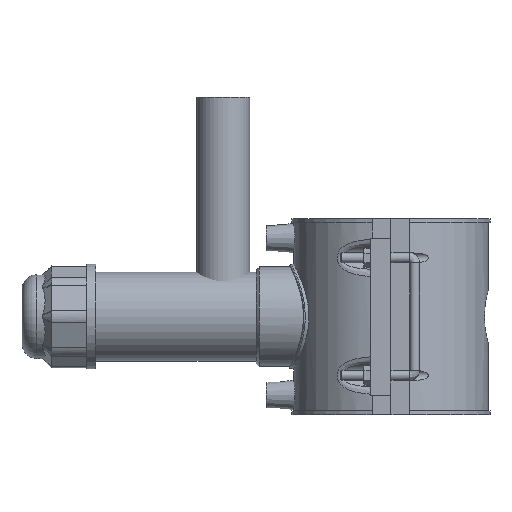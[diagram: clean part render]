
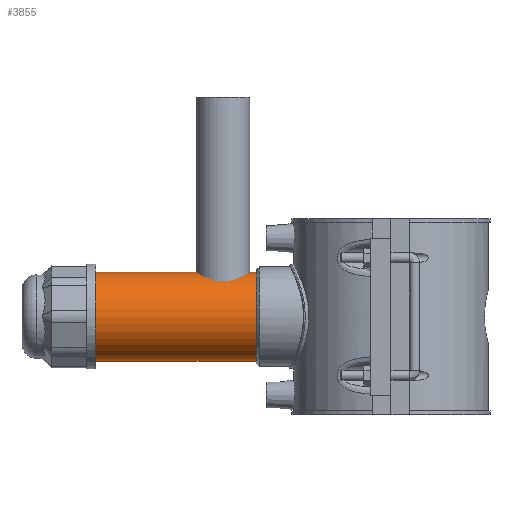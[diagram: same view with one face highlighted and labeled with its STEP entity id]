
A CAD part, left-side view. The second image highlights one B-rep face of the part: STEP entity #3855.
In plain terms, the highlighted cylindrical face has radius 26.775 mm (diameter 53.55 mm), a full revolution.
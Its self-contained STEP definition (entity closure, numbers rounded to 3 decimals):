
#320=CIRCLE('',#4184,26.775);
#321=CIRCLE('',#4185,26.775);
#336=CIRCLE('',#4216,26.775);
#337=CIRCLE('',#4217,26.775);
#580=FACE_OUTER_BOUND('',#822,.T.);
#822=EDGE_LOOP('',(#3556,#3557,#3558,#3559,#3560,#3561));
#1149=LINE('',#8044,#1470);
#1470=VECTOR('',#5221,26.775);
#1886=VERTEX_POINT('',#7978);
#1887=VERTEX_POINT('',#7979);
#1903=VERTEX_POINT('',#8040);
#1904=VERTEX_POINT('',#8041);
#2429=EDGE_CURVE('',#1886,#1887,#320,.T.);
#2430=EDGE_CURVE('',#1887,#1886,#321,.T.);
#2458=EDGE_CURVE('',#1903,#1904,#336,.T.);
#2459=EDGE_CURVE('',#1904,#1903,#337,.T.);
#2460=EDGE_CURVE('',#1904,#1887,#1149,.T.);
#3556=ORIENTED_EDGE('',*,*,#2458,.F.);
#3557=ORIENTED_EDGE('',*,*,#2459,.F.);
#3558=ORIENTED_EDGE('',*,*,#2460,.T.);
#3559=ORIENTED_EDGE('',*,*,#2430,.T.);
#3560=ORIENTED_EDGE('',*,*,#2429,.T.);
#3561=ORIENTED_EDGE('',*,*,#2460,.F.);
#3640=CYLINDRICAL_SURFACE('',#4215,26.775);
#3855=ADVANCED_FACE('',(#580),#3640,.T.);
#4184=AXIS2_PLACEMENT_3D('',#7980,#5140,#5141);
#4185=AXIS2_PLACEMENT_3D('',#7981,#5142,#5143);
#4215=AXIS2_PLACEMENT_3D('',#8039,#5215,#5216);
#4216=AXIS2_PLACEMENT_3D('',#8042,#5217,#5218);
#4217=AXIS2_PLACEMENT_3D('',#8043,#5219,#5220);
#5140=DIRECTION('center_axis',(0.,1.,0.));
#5141=DIRECTION('ref_axis',(1.,0.,0.));
#5142=DIRECTION('center_axis',(0.,1.,0.));
#5143=DIRECTION('ref_axis',(1.,0.,0.));
#5215=DIRECTION('center_axis',(0.,1.,0.));
#5216=DIRECTION('ref_axis',(0.,0.,1.));
#5217=DIRECTION('center_axis',(0.,1.,0.));
#5218=DIRECTION('ref_axis',(1.,0.,0.));
#5219=DIRECTION('center_axis',(0.,1.,0.));
#5220=DIRECTION('ref_axis',(1.,0.,0.));
#5221=DIRECTION('',(0.,-1.,0.));
#7978=CARTESIAN_POINT('',(0.,81.,26.775));
#7979=CARTESIAN_POINT('',(0.,81.,-26.775));
#7980=CARTESIAN_POINT('Origin',(0.,81.,0.));
#7981=CARTESIAN_POINT('Origin',(0.,81.,0.));
#8039=CARTESIAN_POINT('Origin',(0.,129.375,0.));
#8040=CARTESIAN_POINT('',(0.,177.75,26.775));
#8041=CARTESIAN_POINT('',(0.,177.75,-26.775));
#8042=CARTESIAN_POINT('Origin',(0.,177.75,0.));
#8043=CARTESIAN_POINT('Origin',(0.,177.75,0.));
#8044=CARTESIAN_POINT('',(0.,129.375,-26.775));
